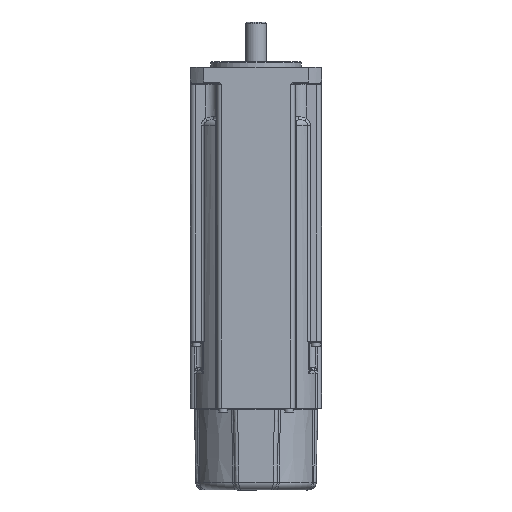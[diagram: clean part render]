
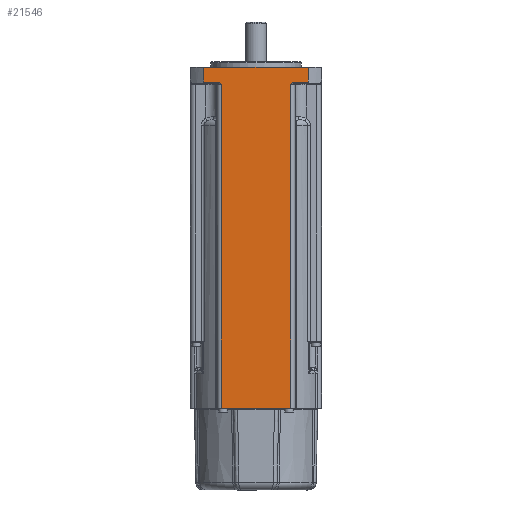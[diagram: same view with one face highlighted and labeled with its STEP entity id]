
A CAD part, front view. The second image highlights one B-rep face of the part: STEP entity #21546.
In plain terms, the highlighted planar face has unit normal (0, -1, 0).
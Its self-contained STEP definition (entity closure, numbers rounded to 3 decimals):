
#10754 = LINE ( 'NONE', #10815, #10814 ) ;
#10755 = CARTESIAN_POINT ( 'NONE',  ( 15.232, -29., -151.2 ) ) ;
#10812 = CARTESIAN_POINT ( 'NONE',  ( -15.232, -29., -151.2 ) ) ;
#10813 = DIRECTION ( 'NONE',  ( -1., 0., 0. ) ) ;
#10814 = VECTOR ( 'NONE', #10813, 1000. ) ;
#10815 = CARTESIAN_POINT ( 'NONE',  ( -17.215, -29., -151.2 ) ) ;
#10890 = CARTESIAN_POINT ( 'NONE',  ( -17.226, -29., -7.304 ) ) ;
#10891 = CARTESIAN_POINT ( 'NONE',  ( -15.232, -29., -8.296 ) ) ;
#10892 = B_SPLINE_CURVE_WITH_KNOTS ( 'NONE', 3,
 ( #10890, #10945, #10944, #10943, #10942, #10941, #10940, #10939 ),
 .UNSPECIFIED., .F., .F.,
 ( 4, 2, 2, 4 ),
 ( 0., 0.001, 0.001, 0.002 ),
 .UNSPECIFIED. ) ;
#10893 = CARTESIAN_POINT ( 'NONE',  ( -17.226, -29., -7.304 ) ) ;
#10894 = DIRECTION ( 'NONE',  ( 1., 0., 0. ) ) ;
#10895 = VECTOR ( 'NONE', #10894, 1000. ) ;
#10896 = CARTESIAN_POINT ( 'NONE',  ( -15.232, -29., -7.304 ) ) ;
#10897 = LINE ( 'NONE', #10896, #10895 ) ;
#10898 = CARTESIAN_POINT ( 'NONE',  ( -22.978, -29., -7.304 ) ) ;
#10899 = DIRECTION ( 'NONE',  ( 0., 0., -1. ) ) ;
#10900 = VECTOR ( 'NONE', #10899, 1000. ) ;
#10901 = CARTESIAN_POINT ( 'NONE',  ( -22.978, -29., 4.953 ) ) ;
#10902 = LINE ( 'NONE', #10901, #10900 ) ;
#10903 = CARTESIAN_POINT ( 'NONE',  ( -22.978, -29., -0.8 ) ) ;
#10904 = DIRECTION ( 'NONE',  ( -1., 0., 0. ) ) ;
#10905 = VECTOR ( 'NONE', #10904, 1000. ) ;
#10906 = CARTESIAN_POINT ( 'NONE',  ( -29., -29., -0.8 ) ) ;
#10907 = LINE ( 'NONE', #10906, #10905 ) ;
#10935 = DIRECTION ( 'NONE',  ( 0., 0., -1. ) ) ;
#10936 = VECTOR ( 'NONE', #10935, 1000. ) ;
#10937 = CARTESIAN_POINT ( 'NONE',  ( -15.232, -29., -151.2 ) ) ;
#10938 = LINE ( 'NONE', #10937, #10936 ) ;
#10939 = CARTESIAN_POINT ( 'NONE',  ( -15.232, -29., -8.296 ) ) ;
#10940 = CARTESIAN_POINT ( 'NONE',  ( -15.525, -29., -8.056 ) ) ;
#10941 = CARTESIAN_POINT ( 'NONE',  ( -15.823, -29., -7.815 ) ) ;
#10942 = CARTESIAN_POINT ( 'NONE',  ( -16.315, -29., -7.534 ) ) ;
#10943 = CARTESIAN_POINT ( 'NONE',  ( -16.485, -29., -7.454 ) ) ;
#10944 = CARTESIAN_POINT ( 'NONE',  ( -16.847, -29., -7.339 ) ) ;
#10945 = CARTESIAN_POINT ( 'NONE',  ( -17.035, -29., -7.304 ) ) ;
#10946 = LINE ( 'NONE', #10998, #10997 ) ;
#10947 = DIRECTION ( 'NONE',  ( 1., 0., 0. ) ) ;
#10948 = DIRECTION ( 'NONE',  ( 0., -1., 0. ) ) ;
#10949 = CARTESIAN_POINT ( 'NONE',  ( -29., -29., -7.8 ) ) ;
#10950 = AXIS2_PLACEMENT_3D ( 'NONE', #10949, #10948, #10947 ) ;
#10951 = PLANE ( 'NONE',  #10950 ) ;
#10952 = FACE_OUTER_BOUND ( 'NONE', #21547, .T. ) ;
#10967 = CARTESIAN_POINT ( 'NONE',  ( 15.232, -29., -7.8 ) ) ;
#10978 = CARTESIAN_POINT ( 'NONE',  ( 15.232, -29., -8.296 ) ) ;
#10979 = DIRECTION ( 'NONE',  ( 0., 0., 1. ) ) ;
#10980 = VECTOR ( 'NONE', #10979, 1000. ) ;
#10981 = LINE ( 'NONE', #10967, #10980 ) ;
#10989 = CARTESIAN_POINT ( 'NONE',  ( 22.978, -29., -0.8 ) ) ;
#10990 = DIRECTION ( 'NONE',  ( 0., 0., 1. ) ) ;
#10991 = VECTOR ( 'NONE', #10990, 1000. ) ;
#10992 = CARTESIAN_POINT ( 'NONE',  ( 22.978, -29., 4.953 ) ) ;
#10993 = LINE ( 'NONE', #10992, #10991 ) ;
#10994 = CARTESIAN_POINT ( 'NONE',  ( 22.978, -29., -7.304 ) ) ;
#10995 = CARTESIAN_POINT ( 'NONE',  ( 17.226, -29., -7.304 ) ) ;
#10996 = DIRECTION ( 'NONE',  ( 1., 0., 0. ) ) ;
#10997 = VECTOR ( 'NONE', #10996, 1000. ) ;
#10998 = CARTESIAN_POINT ( 'NONE',  ( 25.277, -29., -7.304 ) ) ;
#11007 = CARTESIAN_POINT ( 'NONE',  ( 17.226, -29., -7.304 ) ) ;
#11008 = CARTESIAN_POINT ( 'NONE',  ( 17.035, -29., -7.304 ) ) ;
#11009 = CARTESIAN_POINT ( 'NONE',  ( 16.847, -29., -7.339 ) ) ;
#11010 = CARTESIAN_POINT ( 'NONE',  ( 16.485, -29., -7.454 ) ) ;
#11011 = CARTESIAN_POINT ( 'NONE',  ( 16.315, -29., -7.534 ) ) ;
#11012 = CARTESIAN_POINT ( 'NONE',  ( 15.823, -29., -7.815 ) ) ;
#11013 = CARTESIAN_POINT ( 'NONE',  ( 15.526, -29., -8.056 ) ) ;
#11014 = CARTESIAN_POINT ( 'NONE',  ( 15.232, -29., -8.296 ) ) ;
#11018 = B_SPLINE_CURVE_WITH_KNOTS ( 'NONE', 3,
 ( #11014, #11013, #11012, #11011, #11010, #11009, #11008, #11007 ),
 .UNSPECIFIED., .F., .F.,
 ( 4, 2, 2, 4 ),
 ( 0., 0.001, 0.002, 0.002 ),
 .UNSPECIFIED. ) ;
#21467 = VERTEX_POINT ( 'NONE', #10755 ) ;
#21469 = EDGE_CURVE ( 'NONE', #21467, #21470, #10754, .T. ) ;
#21470 = VERTEX_POINT ( 'NONE', #10812 ) ;
#21515 = ORIENTED_EDGE ( 'NONE', *, *, #21516, .T. ) ;
#21516 = EDGE_CURVE ( 'NONE', #21554, #21517, #10907, .T. ) ;
#21517 = VERTEX_POINT ( 'NONE', #10903 ) ;
#21518 = ORIENTED_EDGE ( 'NONE', *, *, #21519, .T. ) ;
#21519 = EDGE_CURVE ( 'NONE', #21517, #21520, #10902, .T. ) ;
#21520 = VERTEX_POINT ( 'NONE', #10898 ) ;
#21521 = ORIENTED_EDGE ( 'NONE', *, *, #21522, .T. ) ;
#21522 = EDGE_CURVE ( 'NONE', #21520, #21523, #10897, .T. ) ;
#21523 = VERTEX_POINT ( 'NONE', #10893 ) ;
#21524 = ORIENTED_EDGE ( 'NONE', *, *, #21525, .T. ) ;
#21525 = EDGE_CURVE ( 'NONE', #21523, #21526, #10892, .T. ) ;
#21526 = VERTEX_POINT ( 'NONE', #10891 ) ;
#21527 = ORIENTED_EDGE ( 'NONE', *, *, #21528, .T. ) ;
#21528 = EDGE_CURVE ( 'NONE', #21526, #21470, #10938, .T. ) ;
#21546 = ADVANCED_FACE ( 'NONE', ( #10952 ), #10951, .T. ) ;
#21547 = EDGE_LOOP ( 'NONE', ( #21548, #21552, #21515, #21518, #21521, #21524, #21527, #21559, #21560, #21563 ) ) ;
#21548 = ORIENTED_EDGE ( 'NONE', *, *, #21549, .T. ) ;
#21549 = EDGE_CURVE ( 'NONE', #21550, #21551, #10946, .T. ) ;
#21550 = VERTEX_POINT ( 'NONE', #10995 ) ;
#21551 = VERTEX_POINT ( 'NONE', #10994 ) ;
#21552 = ORIENTED_EDGE ( 'NONE', *, *, #21553, .T. ) ;
#21553 = EDGE_CURVE ( 'NONE', #21551, #21554, #10993, .T. ) ;
#21554 = VERTEX_POINT ( 'NONE', #10989 ) ;
#21559 = ORIENTED_EDGE ( 'NONE', *, *, #21469, .F. ) ;
#21560 = ORIENTED_EDGE ( 'NONE', *, *, #21561, .T. ) ;
#21561 = EDGE_CURVE ( 'NONE', #21467, #21562, #10981, .T. ) ;
#21562 = VERTEX_POINT ( 'NONE', #10978 ) ;
#21563 = ORIENTED_EDGE ( 'NONE', *, *, #21564, .T. ) ;
#21564 = EDGE_CURVE ( 'NONE', #21562, #21550, #11018, .T. ) ;
